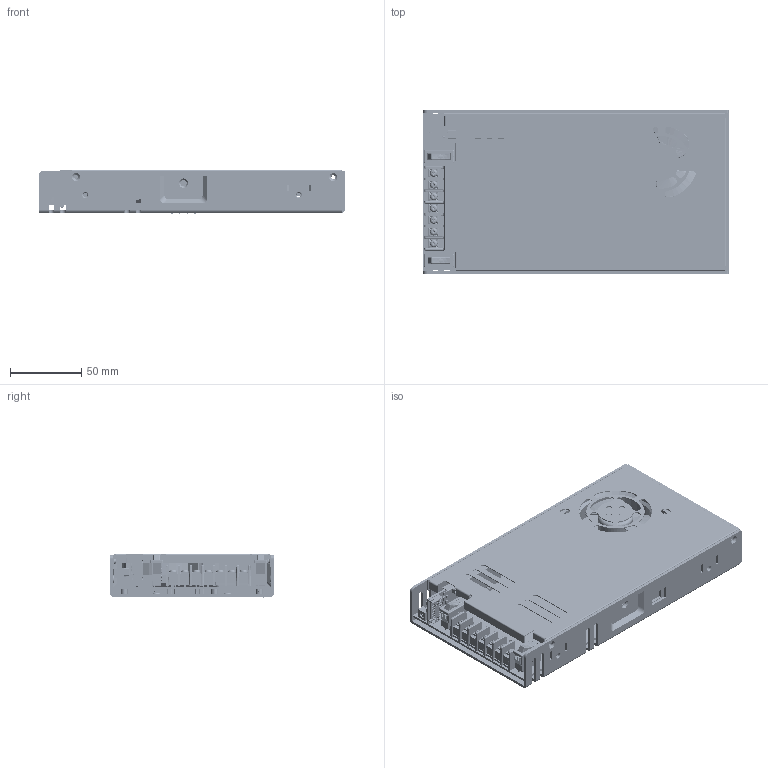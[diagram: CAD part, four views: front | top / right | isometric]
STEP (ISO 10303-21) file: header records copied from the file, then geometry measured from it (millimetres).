
FILE_DESCRIPTION(('Creo Elements/Direct Modeling STEP Export'),'2;1');
FILE_NAME('LAD-360U.stp','2022-10-11T14:51:06',(''),(''),'PTC Creo Elements/Direct Modeling STEP processor for AP214 (Solid Model)','PTC Creo Elements/Direct Modeling 19.0E 27-Jun-2016 (C) Parametric Technology GmbH','');
FILE_SCHEMA(('AUTOMOTIVE_DESIGN { 1 0 10303 214 1 1 1 1 }'));
Length unit declared in the file: millimetre
Products named in the file (284): PCBA; FAN_4715KL40WB30_2.1; FAN_4715KL40WB30_2; FAN-ALL; DG35S-B-07P-13-32A_H_.prt; DG35S-B-07P-13-32A_H_.stp; uu.3; 63; 55; 1HH2LAD-360; a1.1; BOTTOM-CASE; TOP-CASE; MOS15.5x10.1.1.1.1.1.1.1.1.1.2.1.1; mos; 3024-K5P10T3SB05BKBK.prt; GF063X.1; 3024-K5P10T3SB05BKBK.stp; 3024-K5P10T3SB05BKBK.prt.1; BOARD.PRT; 755589088.ASM; R415.ASM; EXTRUDED-18980.PRT; 984336976.ASM.9; EXTRUDED-19669.PRT; 984337296.ASM.8; EXTRUDED-20041.PRT; 984337136.ASM.16; CN6.ASM; 755597752.PRT; C330.ASM; 755592584_1.PRT; 755592584_2.PRT; 755592584_3.PRT; 755592584_4.PRT; 755592584.ASM; R337.ASM; 2CQ1-SOT89.PRT; Q300.ASM; EXTRUDED-40317.PRT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
Assembly tree (510 placements, depth 8):
  LRS-350.stp
    LRS-350
      装配1
        LAD-360BU智能款-R0.step
          PCB.ASM
            R414.ASM
              755589088.ASM
            R306.ASM
              755589088.ASM
            D300.ASM
              2CQ1-SC70-6.PRT
            D330.ASM
              2CDX-SOD323.PRT
            R263.ASM
              755589544.ASM
                755589544_4.PRT
                755589544_3.PRT
                755589544_2.PRT
                755589544_1.PRT
            R264.ASM
              755589088.ASM
            D306.ASM
              2CDX-SOD323.PRT
            R402.ASM
              755589240.ASM
                755589240_4.PRT
                755589240_3.PRT
                755589240_2.PRT
                755589240_1.PRT
            BC31.ASM
              842894352.ASM  x2
                EXTRUDED-260487.PRT
              842894192.ASM
                EXTRUDED-260115.PRT
            Q330.ASM
              2CDX-SOT23.PRT
            R324.ASM
              755589240.ASM
                755589240_4.PRT
                755589240_3.PRT
                755589240_2.PRT
                755589240_1.PRT
            D304.ASM
              2CDX-SOD323.PRT
            R322.ASM
              755589544.ASM
                755589544_4.PRT
                755589544_3.PRT
                755589544_2.PRT
                755589544_1.PRT
            Q311.ASM
              2CDX-SOT23.PRT
            R294.ASM
              755589544.ASM
                755589544_4.PRT
                755589544_3.PRT
                755589544_2.PRT
                755589544_1.PRT
            R295.ASM
              755589088.ASM
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Bounding box: 215 x 115 x 30.9 mm (x, y, z)
Volume: 171116.6 mm3; surface area: 220145.3 mm2
Topology: 377 solids, 391 shells, 15869 faces, 42562 edges, 27838 vertices
Faces by surface type: plane 10655, cylinder 2246, extrusion 2174, sphere 385, torus 299, bspline 84, cone 26
Entity records: 340694 total; most frequent: CARTESIAN_POINT 72228, ORIENTED_EDGE 47046, DIRECTION 42242, EDGE_CURVE 23523, VECTOR 19502, LINE 19227, VERTEX_POINT 15362, AXIS2_PLACEMENT_3D 11370
